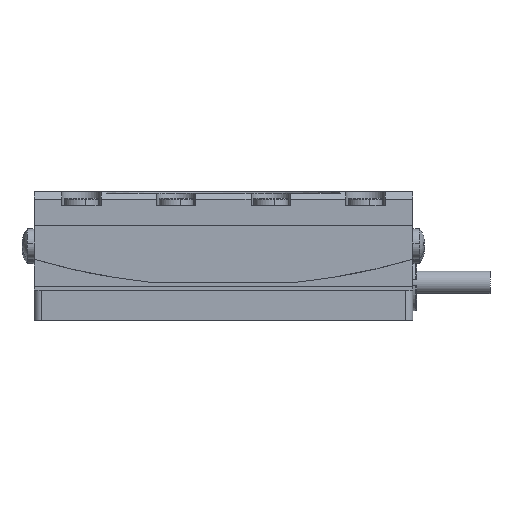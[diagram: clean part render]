
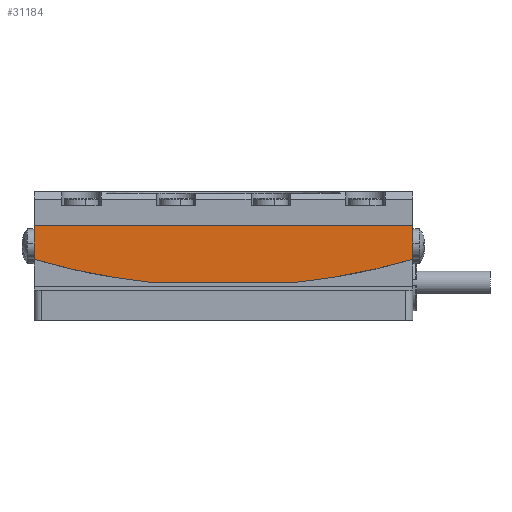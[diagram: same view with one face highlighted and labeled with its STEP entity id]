
A CAD part, left-side view. The second image highlights one B-rep face of the part: STEP entity #31184.
In plain terms, the highlighted planar face has unit normal (-1, 0, 0).
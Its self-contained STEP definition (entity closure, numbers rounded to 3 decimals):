
#639 = VERTEX_POINT ( 'NONE', #28324 ) ;
#2073 = CARTESIAN_POINT ( 'NONE',  ( -25., 0., 89. ) ) ;
#4785 = CARTESIAN_POINT ( 'NONE',  ( -25., -25., 0. ) ) ;
#5189 = FACE_OUTER_BOUND ( 'NONE', #55836, .T. ) ;
#5435 = CARTESIAN_POINT ( 'NONE',  ( -25., -25., 0. ) ) ;
#6065 = EDGE_CURVE ( 'NONE', #63992, #9367, #59215, .T. ) ;
#6799 = CARTESIAN_POINT ( 'NONE',  ( -25., 25., 0. ) ) ;
#6951 = CARTESIAN_POINT ( 'NONE',  ( -25., 25., 7.5 ) ) ;
#7196 = DIRECTION ( 'NONE',  ( 0., -1., 0. ) ) ;
#8288 = CARTESIAN_POINT ( 'NONE',  ( -25., -25., 7.5 ) ) ;
#9367 = VERTEX_POINT ( 'NONE', #10634 ) ;
#9602 = LINE ( 'NONE', #5435, #36633 ) ;
#9940 = DIRECTION ( 'NONE',  ( 0., -1., 0. ) ) ;
#10634 = CARTESIAN_POINT ( 'NONE',  ( -25., -25., 3.063 ) ) ;
#10932 = EDGE_CURVE ( 'NONE', #9367, #65560, #36792, .T. ) ;
#11099 = AXIS2_PLACEMENT_3D ( 'NONE', #4785, #40398, #9940 ) ;
#14079 = CARTESIAN_POINT ( 'NONE',  ( -25., -9.447, 0. ) ) ;
#14196 = CIRCLE ( 'NONE', #28863, 89.5 ) ;
#15478 = DIRECTION ( 'NONE',  ( -1., 0., 0. ) ) ;
#17266 = EDGE_CURVE ( 'NONE', #639, #57749, #14196, .T. ) ;
#22132 = LINE ( 'NONE', #6799, #47641 ) ;
#22650 = VECTOR ( 'NONE', #34732, 1000. ) ;
#27570 = CARTESIAN_POINT ( 'NONE',  ( -25., 9.447, 0. ) ) ;
#27688 = CARTESIAN_POINT ( 'NONE',  ( -25., -25., 0. ) ) ;
#28324 = CARTESIAN_POINT ( 'NONE',  ( -25., 25., 3.063 ) ) ;
#28863 = AXIS2_PLACEMENT_3D ( 'NONE', #2073, #37669, #7196 ) ;
#31184 = ADVANCED_FACE ( 'NONE', ( #5189 ), #40187, .F. ) ;
#32560 = ORIENTED_EDGE ( 'NONE', *, *, #62262, .T. ) ;
#34364 = ORIENTED_EDGE ( 'NONE', *, *, #10932, .T. ) ;
#34732 = DIRECTION ( 'NONE',  ( 0., 1., 0. ) ) ;
#36188 = LINE ( 'NONE', #65282, #22650 ) ;
#36633 = VECTOR ( 'NONE', #40817, 1000. ) ;
#36792 = LINE ( 'NONE', #27688, #50352 ) ;
#37669 = DIRECTION ( 'NONE',  ( -1., 0., 0. ) ) ;
#37991 = ORIENTED_EDGE ( 'NONE', *, *, #63572, .F. ) ;
#39248 = VERTEX_POINT ( 'NONE', #6951 ) ;
#40023 = EDGE_CURVE ( 'NONE', #639, #39248, #22132, .T. ) ;
#40187 = PLANE ( 'NONE',  #11099 ) ;
#40398 = DIRECTION ( 'NONE',  ( 1., 0., 0. ) ) ;
#40817 = DIRECTION ( 'NONE',  ( 0., 1., 0. ) ) ;
#41383 = ORIENTED_EDGE ( 'NONE', *, *, #6065, .T. ) ;
#42409 = DIRECTION ( 'NONE',  ( 0., 0., 1. ) ) ;
#45068 = CARTESIAN_POINT ( 'NONE',  ( -25., 0., 89. ) ) ;
#47641 = VECTOR ( 'NONE', #42409, 1000. ) ;
#48835 = ORIENTED_EDGE ( 'NONE', *, *, #40023, .F. ) ;
#50279 = AXIS2_PLACEMENT_3D ( 'NONE', #45068, #15478, #51081 ) ;
#50352 = VECTOR ( 'NONE', #58251, 1000. ) ;
#51081 = DIRECTION ( 'NONE',  ( 0., -1., 0. ) ) ;
#55836 = EDGE_LOOP ( 'NONE', ( #66141, #37991, #41383, #34364, #32560, #48835 ) ) ;
#57749 = VERTEX_POINT ( 'NONE', #27570 ) ;
#58251 = DIRECTION ( 'NONE',  ( 0., 0., 1. ) ) ;
#59215 = CIRCLE ( 'NONE', #50279, 89.5 ) ;
#62262 = EDGE_CURVE ( 'NONE', #65560, #39248, #36188, .T. ) ;
#63572 = EDGE_CURVE ( 'NONE', #63992, #57749, #9602, .T. ) ;
#63992 = VERTEX_POINT ( 'NONE', #14079 ) ;
#65282 = CARTESIAN_POINT ( 'NONE',  ( -25., -25., 7.5 ) ) ;
#65560 = VERTEX_POINT ( 'NONE', #8288 ) ;
#66141 = ORIENTED_EDGE ( 'NONE', *, *, #17266, .T. ) ;
